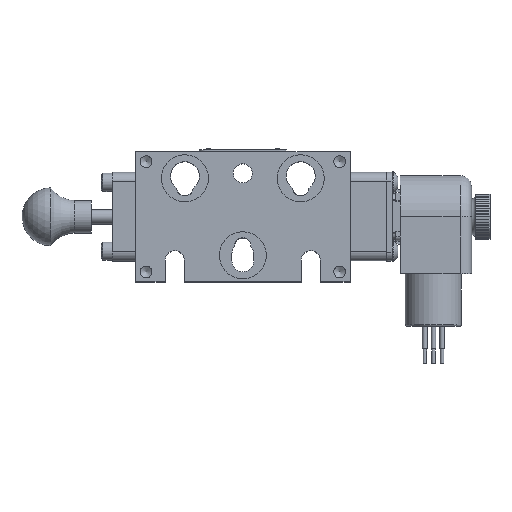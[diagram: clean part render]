
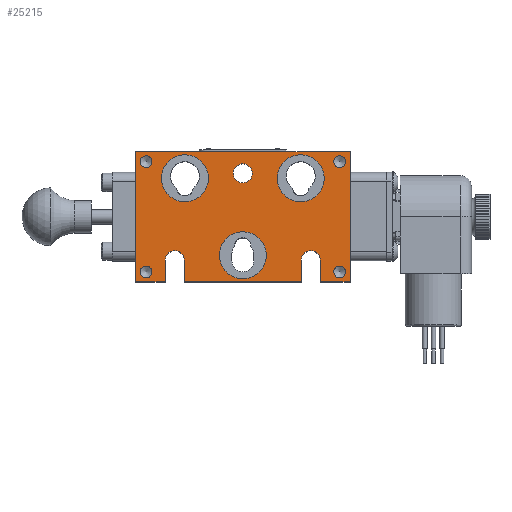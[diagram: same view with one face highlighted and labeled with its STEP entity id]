
A CAD part, top view. The second image highlights one B-rep face of the part: STEP entity #25215.
In plain terms, the highlighted planar face has unit normal (0, 0, 1).
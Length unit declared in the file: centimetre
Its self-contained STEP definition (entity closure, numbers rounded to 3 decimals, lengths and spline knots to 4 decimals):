
#348=FACE_BOUND('',#4232,.T.);
#349=FACE_BOUND('',#4233,.T.);
#350=FACE_BOUND('',#4234,.T.);
#351=FACE_BOUND('',#4235,.T.);
#352=FACE_BOUND('',#4236,.T.);
#353=FACE_BOUND('',#4237,.T.);
#354=FACE_BOUND('',#4238,.T.);
#355=FACE_BOUND('',#4239,.T.);
#1191=CIRCLE('',#26985,0.4166);
#1192=CIRCLE('',#26986,0.4166);
#1193=CIRCLE('',#26987,0.4167);
#1194=CIRCLE('',#26988,1.0312);
#1195=CIRCLE('',#26989,1.0312);
#1196=CIRCLE('',#26990,1.0312);
#1197=CIRCLE('',#26991,0.2578);
#1198=CIRCLE('',#26992,0.2578);
#1199=CIRCLE('',#26993,0.2578);
#1200=CIRCLE('',#26994,0.2578);
#2717=FACE_OUTER_BOUND('',#4231,.T.);
#4231=EDGE_LOOP('',(#17021,#17022,#17023,#17024,#17025,#17026,#17027,#17028,
#17029,#17030,#17031,#17032));
#4232=EDGE_LOOP('',(#17033));
#4233=EDGE_LOOP('',(#17034));
#4234=EDGE_LOOP('',(#17035));
#4235=EDGE_LOOP('',(#17036));
#4236=EDGE_LOOP('',(#17037));
#4237=EDGE_LOOP('',(#17038));
#4238=EDGE_LOOP('',(#17039));
#4239=EDGE_LOOP('',(#17040));
#6028=LINE('',#38539,#7795);
#6029=LINE('',#38541,#7796);
#6030=LINE('',#38543,#7797);
#6031=LINE('',#38545,#7798);
#6032=LINE('',#38549,#7799);
#6033=LINE('',#38551,#7800);
#6034=LINE('',#38553,#7801);
#6035=LINE('',#38557,#7802);
#6036=LINE('',#38559,#7803);
#6037=LINE('',#38560,#7804);
#7795=VECTOR('',#30740,1.);
#7796=VECTOR('',#30741,1.);
#7797=VECTOR('',#30742,1.);
#7798=VECTOR('',#30743,1.);
#7799=VECTOR('',#30746,1.);
#7800=VECTOR('',#30747,1.);
#7801=VECTOR('',#30748,1.);
#7802=VECTOR('',#30751,1.);
#7803=VECTOR('',#30752,1.);
#7804=VECTOR('',#30753,1.);
#10111=VERTEX_POINT('',#38537);
#10112=VERTEX_POINT('',#38538);
#10113=VERTEX_POINT('',#38540);
#10114=VERTEX_POINT('',#38542);
#10115=VERTEX_POINT('',#38544);
#10116=VERTEX_POINT('',#38546);
#10117=VERTEX_POINT('',#38548);
#10118=VERTEX_POINT('',#38550);
#10119=VERTEX_POINT('',#38552);
#10120=VERTEX_POINT('',#38554);
#10121=VERTEX_POINT('',#38556);
#10122=VERTEX_POINT('',#38558);
#10123=VERTEX_POINT('',#38561);
#10124=VERTEX_POINT('',#38563);
#10125=VERTEX_POINT('',#38565);
#10126=VERTEX_POINT('',#38567);
#10127=VERTEX_POINT('',#38569);
#10128=VERTEX_POINT('',#38571);
#10129=VERTEX_POINT('',#38573);
#10130=VERTEX_POINT('',#38575);
#12685=EDGE_CURVE('',#10111,#10112,#6028,.T.);
#12686=EDGE_CURVE('',#10113,#10111,#6029,.T.);
#12687=EDGE_CURVE('',#10114,#10113,#6030,.T.);
#12688=EDGE_CURVE('',#10115,#10114,#6031,.T.);
#12689=EDGE_CURVE('',#10116,#10115,#1191,.T.);
#12690=EDGE_CURVE('',#10117,#10116,#6032,.T.);
#12691=EDGE_CURVE('',#10118,#10117,#6033,.T.);
#12692=EDGE_CURVE('',#10119,#10118,#6034,.T.);
#12693=EDGE_CURVE('',#10120,#10119,#1192,.T.);
#12694=EDGE_CURVE('',#10121,#10120,#6035,.T.);
#12695=EDGE_CURVE('',#10122,#10121,#6036,.T.);
#12696=EDGE_CURVE('',#10112,#10122,#6037,.T.);
#12697=EDGE_CURVE('',#10123,#10123,#1193,.T.);
#12698=EDGE_CURVE('',#10124,#10124,#1194,.T.);
#12699=EDGE_CURVE('',#10125,#10125,#1195,.T.);
#12700=EDGE_CURVE('',#10126,#10126,#1196,.T.);
#12701=EDGE_CURVE('',#10127,#10127,#1197,.T.);
#12702=EDGE_CURVE('',#10128,#10128,#1198,.T.);
#12703=EDGE_CURVE('',#10129,#10129,#1199,.T.);
#12704=EDGE_CURVE('',#10130,#10130,#1200,.T.);
#17021=ORIENTED_EDGE('',*,*,#12685,.F.);
#17022=ORIENTED_EDGE('',*,*,#12686,.F.);
#17023=ORIENTED_EDGE('',*,*,#12687,.F.);
#17024=ORIENTED_EDGE('',*,*,#12688,.F.);
#17025=ORIENTED_EDGE('',*,*,#12689,.F.);
#17026=ORIENTED_EDGE('',*,*,#12690,.F.);
#17027=ORIENTED_EDGE('',*,*,#12691,.F.);
#17028=ORIENTED_EDGE('',*,*,#12692,.F.);
#17029=ORIENTED_EDGE('',*,*,#12693,.F.);
#17030=ORIENTED_EDGE('',*,*,#12694,.F.);
#17031=ORIENTED_EDGE('',*,*,#12695,.F.);
#17032=ORIENTED_EDGE('',*,*,#12696,.F.);
#17033=ORIENTED_EDGE('',*,*,#12697,.T.);
#17034=ORIENTED_EDGE('',*,*,#12698,.T.);
#17035=ORIENTED_EDGE('',*,*,#12699,.T.);
#17036=ORIENTED_EDGE('',*,*,#12700,.T.);
#17037=ORIENTED_EDGE('',*,*,#12701,.T.);
#17038=ORIENTED_EDGE('',*,*,#12702,.T.);
#17039=ORIENTED_EDGE('',*,*,#12703,.T.);
#17040=ORIENTED_EDGE('',*,*,#12704,.T.);
#22953=PLANE('',#26984);
#25215=ADVANCED_FACE('',(#2717,#348,#349,#350,#351,#352,#353,#354,#355),
#22953,.T.);
#26984=AXIS2_PLACEMENT_3D('',#38536,#30738,#30739);
#26985=AXIS2_PLACEMENT_3D('',#38547,#30744,#30745);
#26986=AXIS2_PLACEMENT_3D('',#38555,#30749,#30750);
#26987=AXIS2_PLACEMENT_3D('',#38562,#30754,#30755);
#26988=AXIS2_PLACEMENT_3D('',#38564,#30756,#30757);
#26989=AXIS2_PLACEMENT_3D('',#38566,#30758,#30759);
#26990=AXIS2_PLACEMENT_3D('',#38568,#30760,#30761);
#26991=AXIS2_PLACEMENT_3D('',#38570,#30762,#30763);
#26992=AXIS2_PLACEMENT_3D('',#38572,#30764,#30765);
#26993=AXIS2_PLACEMENT_3D('',#38574,#30766,#30767);
#26994=AXIS2_PLACEMENT_3D('',#38576,#30768,#30769);
#30738=DIRECTION('center_axis',(0.,0.,1.));
#30739=DIRECTION('ref_axis',(1.,0.,0.));
#30740=DIRECTION('',(1.,0.,0.));
#30741=DIRECTION('',(0.,1.,0.));
#30742=DIRECTION('',(-1.,0.,0.));
#30743=DIRECTION('',(0.,-1.,0.));
#30744=DIRECTION('center_axis',(0.,0.,1.));
#30745=DIRECTION('ref_axis',(1.,0.,0.));
#30746=DIRECTION('',(0.,1.,0.));
#30747=DIRECTION('',(-1.,0.,0.));
#30748=DIRECTION('',(0.,-1.,0.));
#30749=DIRECTION('center_axis',(0.,0.,1.));
#30750=DIRECTION('ref_axis',(1.,0.,0.));
#30751=DIRECTION('',(0.,1.,0.));
#30752=DIRECTION('',(-1.,0.,0.));
#30753=DIRECTION('',(0.,-1.,0.));
#30754=DIRECTION('center_axis',(0.,0.,-1.));
#30755=DIRECTION('ref_axis',(1.,0.,0.));
#30756=DIRECTION('center_axis',(0.,0.,-1.));
#30757=DIRECTION('ref_axis',(-1.,0.,0.));
#30758=DIRECTION('center_axis',(0.,0.,-1.));
#30759=DIRECTION('ref_axis',(-1.,0.,0.));
#30760=DIRECTION('center_axis',(0.,0.,-1.));
#30761=DIRECTION('ref_axis',(-1.,0.,0.));
#30762=DIRECTION('center_axis',(0.,0.,-1.));
#30763=DIRECTION('ref_axis',(1.,0.,0.));
#30764=DIRECTION('center_axis',(0.,0.,-1.));
#30765=DIRECTION('ref_axis',(1.,0.,0.));
#30766=DIRECTION('center_axis',(0.,0.,-1.));
#30767=DIRECTION('ref_axis',(1.,0.,0.));
#30768=DIRECTION('center_axis',(0.,0.,-1.));
#30769=DIRECTION('ref_axis',(1.,0.,0.));
#38536=CARTESIAN_POINT('Origin',(0.,-0.2475,
1.6662));
#38537=CARTESIAN_POINT('',(-4.7117,2.8575,1.6662));
#38538=CARTESIAN_POINT('',(4.7117,2.8575,1.6662));
#38539=CARTESIAN_POINT('',(-4.7117,2.8575,1.6662));
#38540=CARTESIAN_POINT('',(-4.7117,-2.8575,1.6662));
#38541=CARTESIAN_POINT('',(-4.7117,-2.8575,1.6662));
#38542=CARTESIAN_POINT('',(-3.4011,-2.8575,1.6662));
#38543=CARTESIAN_POINT('',(-3.4011,-2.8575,1.6662));
#38544=CARTESIAN_POINT('',(-3.4011,-1.905,1.6662));
#38545=CARTESIAN_POINT('',(-3.4011,-1.905,1.6662));
#38546=CARTESIAN_POINT('',(-2.5679,-1.905,1.6662));
#38547=CARTESIAN_POINT('Origin',(-2.9845,-1.905,1.6662));
#38548=CARTESIAN_POINT('',(-2.5679,-2.8575,1.6662));
#38549=CARTESIAN_POINT('',(-2.5679,-2.8575,1.6662));
#38550=CARTESIAN_POINT('',(2.5679,-2.8575,1.6662));
#38551=CARTESIAN_POINT('',(2.5679,-2.8575,1.6662));
#38552=CARTESIAN_POINT('',(2.5679,-1.905,1.6662));
#38553=CARTESIAN_POINT('',(2.5679,-1.905,1.6662));
#38554=CARTESIAN_POINT('',(3.4011,-1.905,1.6662));
#38555=CARTESIAN_POINT('Origin',(2.9845,-1.905,1.6662));
#38556=CARTESIAN_POINT('',(3.4011,-2.8575,1.6662));
#38557=CARTESIAN_POINT('',(3.4011,-2.8575,1.6662));
#38558=CARTESIAN_POINT('',(4.7117,-2.8575,1.6662));
#38559=CARTESIAN_POINT('',(4.7117,-2.8575,1.6662));
#38560=CARTESIAN_POINT('',(4.7117,2.8575,1.6662));
#38561=CARTESIAN_POINT('',(-0.4167,1.905,1.6662));
#38562=CARTESIAN_POINT('Origin',(0.,1.905,1.6662));
#38563=CARTESIAN_POINT('',(3.5712,1.6891,1.6662));
#38564=CARTESIAN_POINT('Origin',(2.54,1.6891,1.6662));
#38565=CARTESIAN_POINT('',(1.0312,-1.6891,1.6662));
#38566=CARTESIAN_POINT('Origin',(0.,-1.6891,1.6662));
#38567=CARTESIAN_POINT('',(-1.5088,1.6891,1.6662));
#38568=CARTESIAN_POINT('Origin',(-2.54,1.6891,1.6662));
#38569=CARTESIAN_POINT('',(3.9891,-2.4206,1.6662));
#38570=CARTESIAN_POINT('Origin',(4.2469,-2.4206,1.6662));
#38571=CARTESIAN_POINT('',(-4.5022,-2.4206,1.6662));
#38572=CARTESIAN_POINT('Origin',(-4.2443,-2.4206,1.6662));
#38573=CARTESIAN_POINT('',(3.9891,2.4206,1.6662));
#38574=CARTESIAN_POINT('Origin',(4.2469,2.4206,1.6662));
#38575=CARTESIAN_POINT('',(-4.5022,2.4206,1.6662));
#38576=CARTESIAN_POINT('Origin',(-4.2443,2.4206,1.6662));
